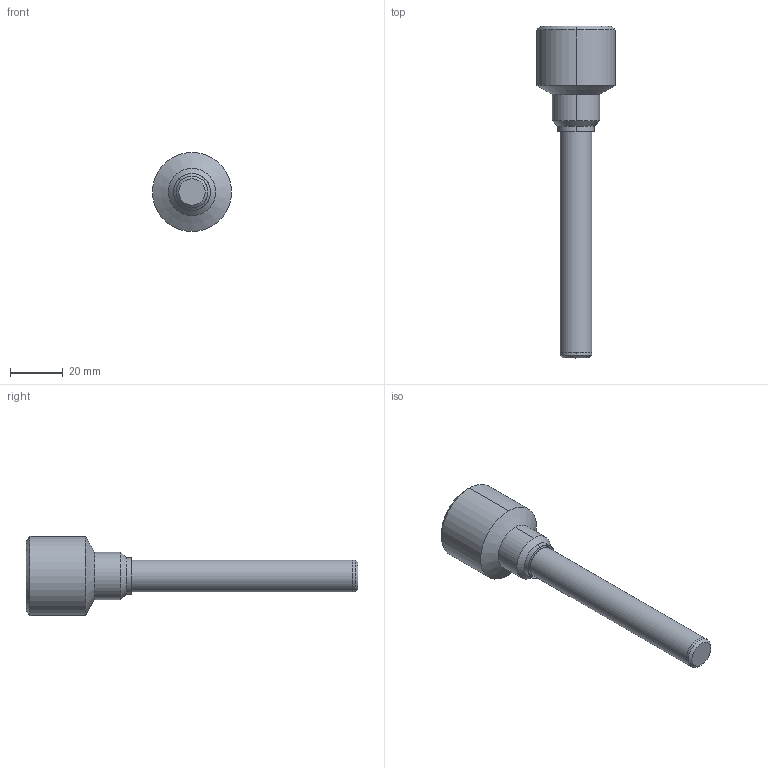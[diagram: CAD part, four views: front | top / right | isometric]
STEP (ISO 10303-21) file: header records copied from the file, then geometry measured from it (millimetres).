
FILE_DESCRIPTION(('TFLEX Exchange Step'),'2;1');
FILE_NAME('_Гильза ГЗ202-d6-P16-(M20)-H-M01.stp', '2020-10-06T20:31:37+05:00',('Алексей'),('Unknown organisation'),'TFLEX Exchange 2019.1','T-FLEX CAD','Unknown authorisation');
FILE_SCHEMA( ('AUTOMOTIVE_DESIGN { 1 0 10303 214 1 1 1 1 }') );
Length unit declared in the file: millimetre
Products named in the file (4): Труба Т-12х1-L-01; Заглушка З-12х1-01; Штуцер Ш-20х1.5-03; _Гильза ГЗ202-d6-P16-(M20)-H-M01
Assembly tree (3 placements, depth 2):
  _Гильза ГЗ202-d6-P16-(M20)-H-M01
    Труба Т-12х1-L-01
    Заглушка З-12х1-01
    Штуцер Ш-20х1.5-03
Bounding box: 30 x 126 x 30 mm (x, y, z)
Volume: 16381.2 mm3; surface area: 12476.3 mm2
Topology: 3 solids, 3 shells, 33 faces, 69 edges, 40 vertices
Faces by surface type: cylinder 18, plane 8, cone 7
Full cylindrical faces by diameter (mm): 10 x1, 12 x1
Entity records: 1000 total; most frequent: DIRECTION 191, CARTESIAN_POINT 153, ORIENTED_EDGE 142, AXIS2_PLACEMENT_3D 80, EDGE_CURVE 71, VERTEX_POINT 42, CIRCLE 40, EDGE_LOOP 35
